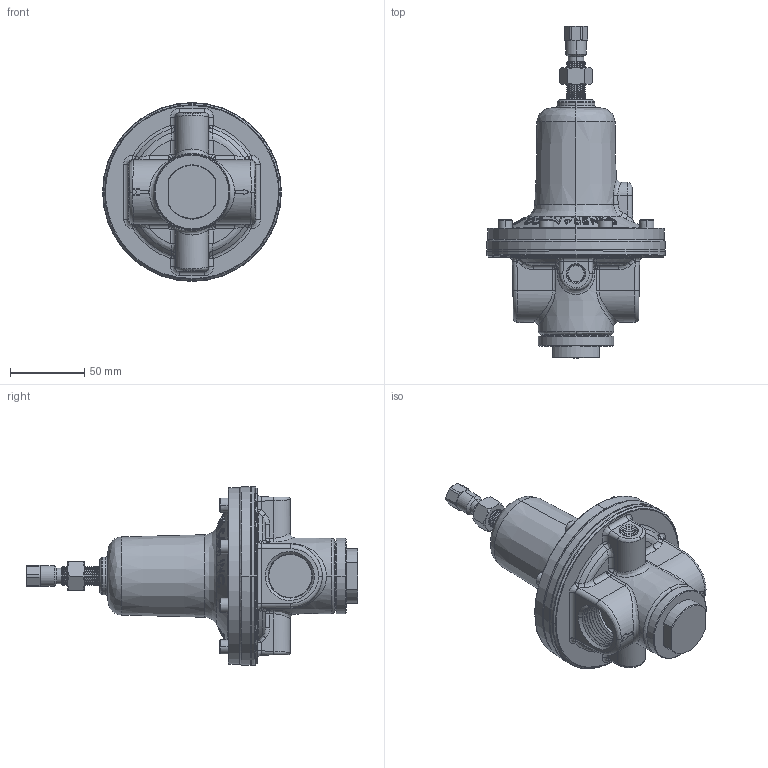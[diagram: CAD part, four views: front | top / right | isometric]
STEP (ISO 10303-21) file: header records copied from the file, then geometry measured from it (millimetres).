
FILE_DESCRIPTION (( 'STEP AP203' ), '1' );
FILE_NAME ('4GDR-8BSPT.STEP', '2013-03-14T15:25:37', ( '' ), ( '' ), 'SwSTEP 2.0', 'SolidWorks 2011', '' );
FILE_SCHEMA (( 'CONFIG_CONTROL_DESIGN' ));
Length unit declared in the file: inch
Products named in the file (2): 4GDR-8BSPT; Part5^4GDR-1000B
Assembly tree (1 placements, depth 2):
  4GDR-8BSPT
    Part5^4GDR-1000B
Bounding box: 120.14 x 223.04 x 120.14 mm (x, y, z)
Volume: 638956.5 mm3; surface area: 69843.8 mm2
Topology: 1 solids, 9 shells, 1171 faces, 2888 edges, 1751 vertices
Faces by surface type: cone 429, plane 341, bspline 224, cylinder 177
Entity records: 46865 total; most frequent: CARTESIAN_POINT 20900, ORIENTED_EDGE 5726, DIRECTION 4940, EDGE_CURVE 2863, AXIS2_PLACEMENT_3D 1932, VERTEX_POINT 1751, EDGE_LOOP 1228, FACE_OUTER_BOUND 1171
